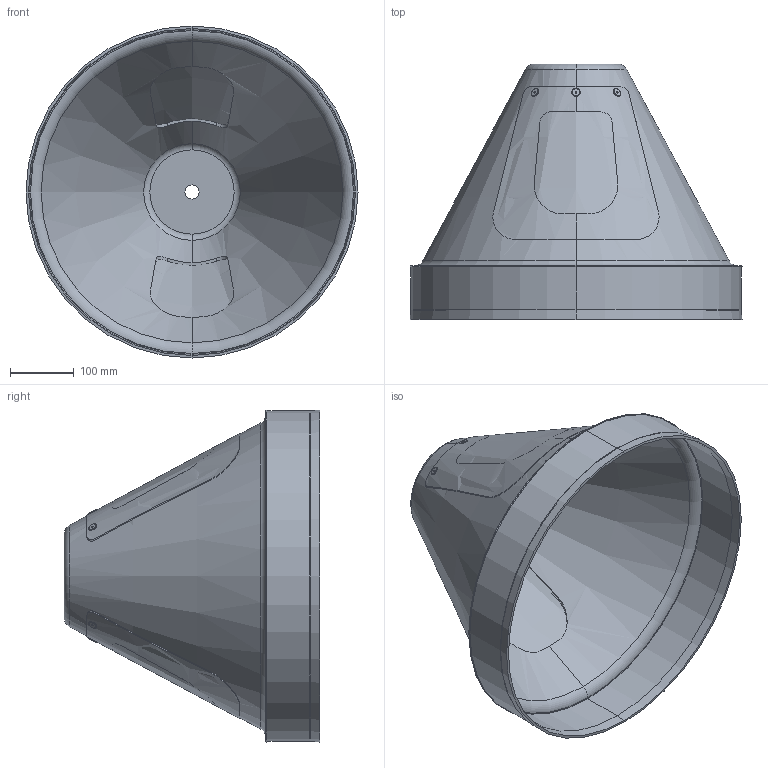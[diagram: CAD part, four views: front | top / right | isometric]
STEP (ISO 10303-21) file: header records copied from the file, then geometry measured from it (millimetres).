
FILE_DESCRIPTION (( 'STEP AP214' ), '1' );
FILE_NAME ('0000002119.STEP', '2015-05-04T06:48:48', ( 'HP' ), ( 'Hewlett-Packard Company' ), 'SwSTEP 2.0', 'SolidWorks 2014', '' );
FILE_SCHEMA (( 'AUTOMOTIVE_DESIGN' ));
Length unit declared in the file: millimetre
Products named in the file (3): 0000002119; 0000002118; 0000002116
Assembly tree (3 placements, depth 2):
  0000002119
    0000002118
    0000002116  x2
Bounding box: 520 x 400.35 x 520 mm (x, y, z)
Volume: 2053819 mm3; surface area: 1239821.2 mm2
Topology: 9 solids, 9 shells, 115 faces, 274 edges, 176 vertices
Faces by surface type: cylinder 42, plane 33, torus 26, cone 14
Entity records: 3598 total; most frequent: CARTESIAN_POINT 1383, DIRECTION 443, ORIENTED_EDGE 410, EDGE_CURVE 205, AXIS2_PLACEMENT_3D 194, VERTEX_POINT 130, CIRCLE 104, EDGE_LOOP 97
